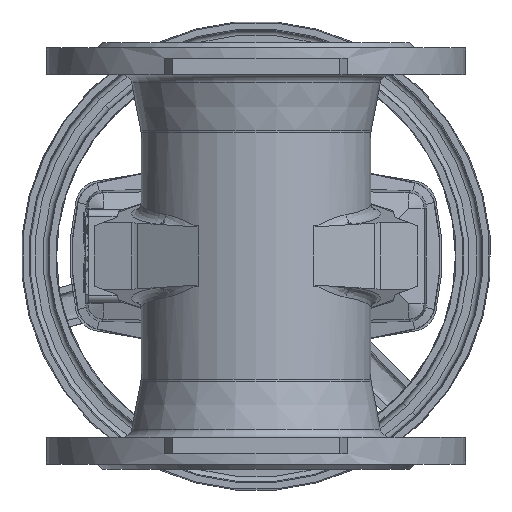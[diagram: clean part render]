
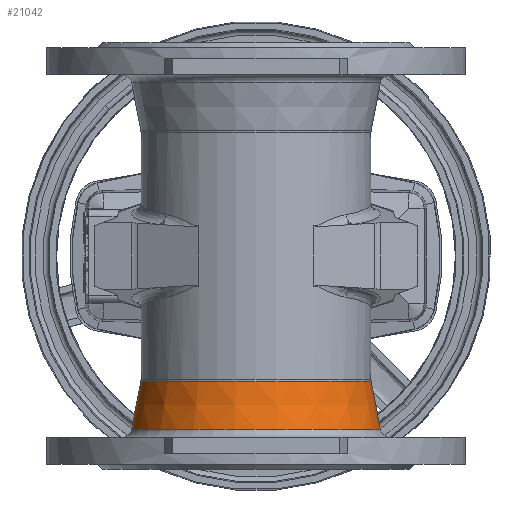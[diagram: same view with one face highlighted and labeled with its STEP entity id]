
A CAD part, front view. The second image highlights one B-rep face of the part: STEP entity #21042.
In plain terms, the highlighted conical face has half-angle 11 degrees and reference radius 74.11 mm.
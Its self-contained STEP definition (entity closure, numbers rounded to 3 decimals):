
#363 = VERTEX_POINT ( 'NONE', #9038 ) ;
#400 = DIRECTION ( 'NONE',  ( 0.191, 0., -0.982 ) ) ;
#521 = CARTESIAN_POINT ( 'NONE',  ( 74.11, 0., -103.145 ) ) ;
#865 = EDGE_CURVE ( 'Defeatured_0_299+Defeatured_0_300+Defeatured_0_318+Defeatured_0_323', #16633, #16923, #6264, .T. ) ;
#1452 = ORIENTED_EDGE ( 'NONE', *, *, #11983, .F. ) ;
#1518 = DIRECTION ( 'NONE',  ( 1., 0., 0. ) ) ;
#1633 = DIRECTION ( 'NONE',  ( 0., 0., 1. ) ) ;
#3351 = CARTESIAN_POINT ( 'NONE',  ( 0., 0., -103.145 ) ) ;
#4202 = LINE ( 'NONE', #521, #21299 ) ;
#5074 = EDGE_CURVE ( 'Defeatured_0_316+Defeatured_0_299+Defeatured_0_318+Defeatured_0_323', #363, #10627, #8905, .T. ) ;
#5491 = EDGE_CURVE ( 'NONE', #363, #16633, #14551, .T. ) ;
#5586 = AXIS2_PLACEMENT_3D ( 'NONE', #12724, #12611, #16323 ) ;
#5653 = CARTESIAN_POINT ( 'NONE',  ( -74.11, 0., -103.145 ) ) ;
#6264 = CIRCLE ( 'NONE', #18074, 74.11 ) ;
#8101 = CARTESIAN_POINT ( 'NONE',  ( -74.11, 0., -103.145 ) ) ;
#8905 = CIRCLE ( 'NONE', #13768, 68.61 ) ;
#9030 = FACE_OUTER_BOUND ( 'NONE', #16414, .T. ) ;
#9038 = CARTESIAN_POINT ( 'NONE',  ( -68.61, 0., -74.85 ) ) ;
#9370 = CARTESIAN_POINT ( 'NONE',  ( 74.11, 0., -103.145 ) ) ;
#9423 = DIRECTION ( 'NONE',  ( 1., 0., 0. ) ) ;
#10627 = VERTEX_POINT ( 'NONE', #14532 ) ;
#10752 = VECTOR ( 'NONE', #10956, 1000. ) ;
#10956 = DIRECTION ( 'NONE',  ( -0.191, 0., -0.982 ) ) ;
#11983 = EDGE_CURVE ( 'NONE', #10627, #16923, #4202, .T. ) ;
#12611 = DIRECTION ( 'NONE',  ( 0., 0., -1. ) ) ;
#12724 = CARTESIAN_POINT ( 'NONE',  ( 0., 0., -103.145 ) ) ;
#13768 = AXIS2_PLACEMENT_3D ( 'NONE', #18206, #16808, #9423 ) ;
#14072 = ORIENTED_EDGE ( 'NONE', *, *, #5074, .F. ) ;
#14532 = CARTESIAN_POINT ( 'NONE',  ( 68.61, 0., -74.85 ) ) ;
#14551 = LINE ( 'NONE', #5653, #10752 ) ;
#16323 = DIRECTION ( 'NONE',  ( 1., 0., 0. ) ) ;
#16414 = EDGE_LOOP ( 'NONE', ( #14072, #18695, #22175, #1452 ) ) ;
#16633 = VERTEX_POINT ( 'NONE', #8101 ) ;
#16808 = DIRECTION ( 'NONE',  ( 0., 0., 1. ) ) ;
#16923 = VERTEX_POINT ( 'NONE', #9370 ) ;
#18074 = AXIS2_PLACEMENT_3D ( 'NONE', #3351, #1633, #1518 ) ;
#18206 = CARTESIAN_POINT ( 'NONE',  ( 0., 0., -74.85 ) ) ;
#18490 = CONICAL_SURFACE ( 'NONE', #5586, 74.11, 0.192 ) ;
#18695 = ORIENTED_EDGE ( 'NONE', *, *, #5491, .T. ) ;
#21042 = ADVANCED_FACE ( 'Defeatured_0_299', ( #9030 ), #18490, .T. ) ;
#21299 = VECTOR ( 'NONE', #400, 1000. ) ;
#22175 = ORIENTED_EDGE ( 'NONE', *, *, #865, .T. ) ;
